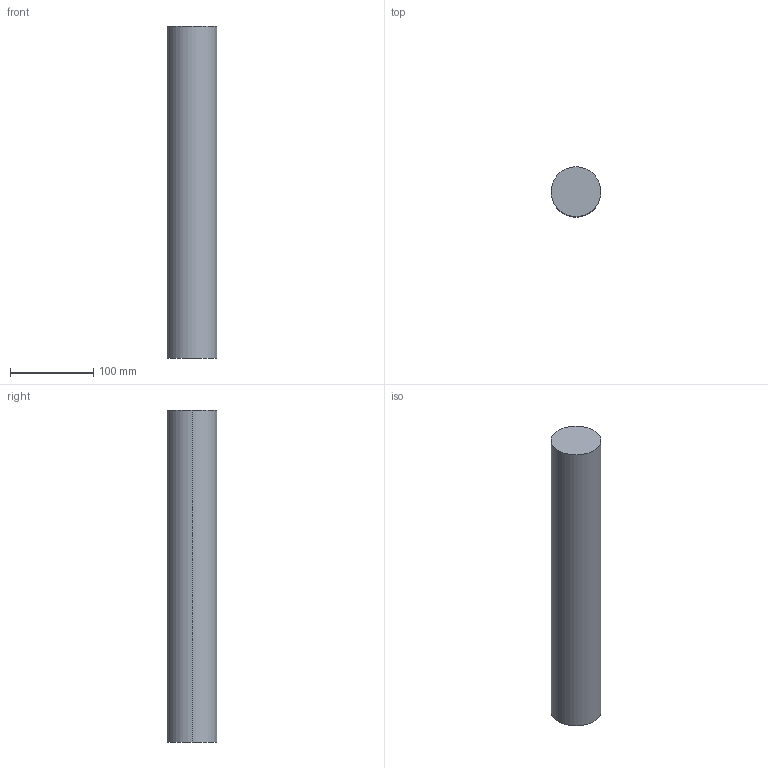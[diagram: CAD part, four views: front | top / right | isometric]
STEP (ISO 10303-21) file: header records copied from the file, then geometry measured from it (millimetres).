
FILE_DESCRIPTION (( 'STEP AP203' ), '1' );
FILE_NAME ('Mounting column Ø60x400 041J004334.STEP', '2009-10-15T06:15:17', ( 'HP' ), ( '' ), 'SwSTEP 2.0', 'SolidWorks 2008', '' );
FILE_SCHEMA (( 'CONFIG_CONTROL_DESIGN' ));
Length unit declared in the file: millimetre
Products named in the file (1): Mounting column Ø60x400 041J004334
Bounding box: 60 x 60 x 400 mm (x, y, z)
Volume: 1130973.4 mm3; surface area: 81053.1 mm2
Topology: 1 solids, 1 shells, 4 faces, 6 edges, 4 vertices
Faces by surface type: cylinder 2, plane 2
Entity records: 171 total; most frequent: DIRECTION 20, CARTESIAN_POINT 15, ORIENTED_EDGE 12, AXIS2_PLACEMENT_3D 9, PERSON_AND_ORGANIZATION 8, EDGE_CURVE 6, CC_DESIGN_PERSON_AND_ORGANIZATION_ASSIGNMENT 5, PERSON_AND_ORGANIZATION_ROLE 5
